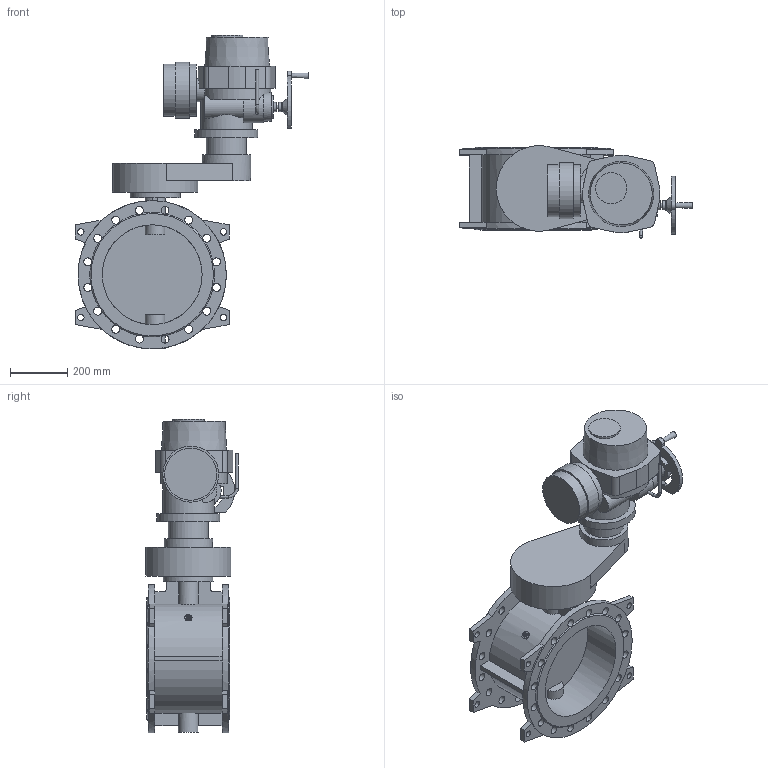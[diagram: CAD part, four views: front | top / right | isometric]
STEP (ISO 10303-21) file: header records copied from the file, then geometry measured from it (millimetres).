
FILE_DESCRIPTION(('STEP AP203'), '1');
FILE_NAME('Çàòâîð 023F.Z DN350 PN16 + ýëåêòðîïðèâîä QT.A200', '', ('UNSPECIFIED'), ('UNSPECIFIED'), 'ASCON STEP Converter 1.6', 'ASCON Math Kernel', '');
FILE_SCHEMA(('CONFIG_CONTROL_DESIGN'));
Length unit declared in the file: millimetre
Bounding box: 819 x 324.45 x 1100 mm (x, y, z)
Volume: 45533500.7 mm3; surface area: 2460932 mm2
Topology: 1 solids, 1 shells, 275 faces, 772 edges, 510 vertices
Faces by surface type: plane 148, cylinder 121, cone 5, torus 1
Full cylindrical faces by diameter (mm): 10 x2, 14 x12, 16 x1, 17.5 x4, 18 x4, 22 x8, 28 x32, 32 x2, 35 x1, 70 x1, 80 x2, 100 x1, 110 x1, 140 x1, 170 x1, 175 x1, 180 x1, 183 x2, 196 x1, 220 x1, 300 x1, 350 x2, 520 x2
Entity records: 15232 total; most frequent: CARTESIAN_POINT 5861, DIRECTION 1525, ORIENTED_EDGE 1364, EDGE_CURVE 682, AXIS2_PLACEMENT_3D 627, VERTEX_POINT 510, EDGE_LOOP 462, CIRCLE 351
